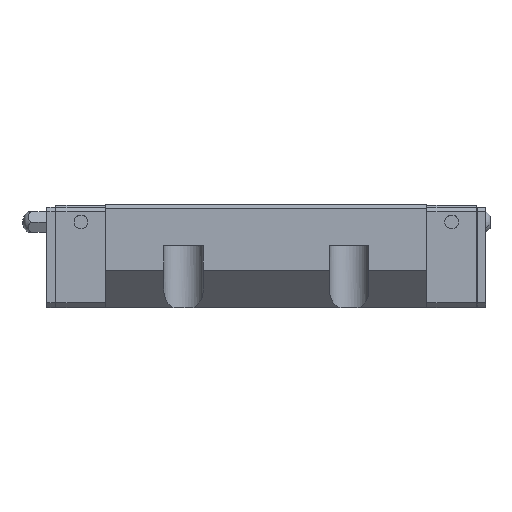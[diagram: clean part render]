
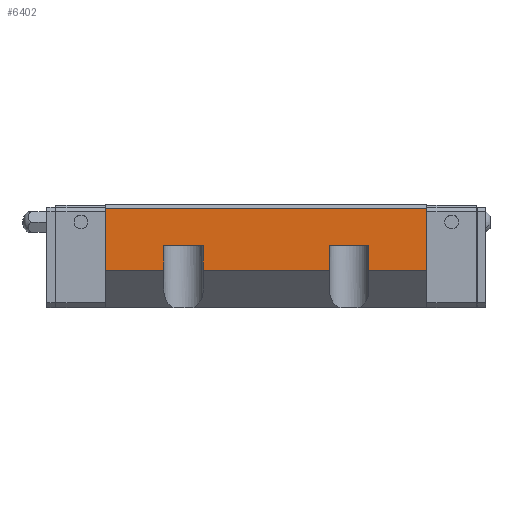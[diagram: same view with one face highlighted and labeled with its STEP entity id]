
A CAD part, top view. The second image highlights one B-rep face of the part: STEP entity #6402.
In plain terms, the highlighted planar face has unit normal (0, 0, 1).
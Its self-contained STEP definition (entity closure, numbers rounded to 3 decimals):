
#97 = VECTOR ( 'NONE', #6217, 1000. ) ;
#377 = EDGE_CURVE ( 'NONE', #1012, #4405, #1914, .T. ) ;
#389 = ORIENTED_EDGE ( 'NONE', *, *, #2647, .F. ) ;
#476 = EDGE_CURVE ( 'NONE', #8020, #3157, #8450, .T. ) ;
#585 = ORIENTED_EDGE ( 'NONE', *, *, #3516, .T. ) ;
#659 = VERTEX_POINT ( 'NONE', #3827 ) ;
#677 = CARTESIAN_POINT ( 'NONE',  ( 38.75, 8., 31.5 ) ) ;
#1002 = VERTEX_POINT ( 'NONE', #8754 ) ;
#1012 = VERTEX_POINT ( 'NONE', #2363 ) ;
#1069 = DIRECTION ( 'NONE',  ( 0., 1., 0. ) ) ;
#1150 = VERTEX_POINT ( 'NONE', #4053 ) ;
#1199 = PLANE ( 'NONE',  #1792 ) ;
#1324 = VECTOR ( 'NONE', #8290, 1000. ) ;
#1512 = CARTESIAN_POINT ( 'NONE',  ( -15.25, -7., 31.5 ) ) ;
#1544 = DIRECTION ( 'NONE',  ( 0., 1., 0. ) ) ;
#1792 = AXIS2_PLACEMENT_3D ( 'NONE', #8063, #6783, #4677 ) ;
#1910 = CARTESIAN_POINT ( 'NONE',  ( 38.75, -7., 31.5 ) ) ;
#1914 = LINE ( 'NONE', #677, #8096 ) ;
#2318 = VERTEX_POINT ( 'NONE', #4055 ) ;
#2363 = CARTESIAN_POINT ( 'NONE',  ( 38.75, 8., 31.5 ) ) ;
#2501 = CARTESIAN_POINT ( 'NONE',  ( -15.25, -1., 31.5 ) ) ;
#2647 = EDGE_CURVE ( 'NONE', #3146, #5412, #8837, .T. ) ;
#2942 = VECTOR ( 'NONE', #6304, 1000. ) ;
#3146 = VERTEX_POINT ( 'NONE', #7542 ) ;
#3157 = VERTEX_POINT ( 'NONE', #3198 ) ;
#3198 = CARTESIAN_POINT ( 'NONE',  ( -15.25, -1., 31.5 ) ) ;
#3300 = DIRECTION ( 'NONE',  ( 0., -1., 0. ) ) ;
#3363 = EDGE_CURVE ( 'NONE', #5412, #6036, #5923, .T. ) ;
#3516 = EDGE_CURVE ( 'NONE', #3146, #4405, #3869, .T. ) ;
#3567 = EDGE_CURVE ( 'NONE', #8500, #6036, #9064, .T. ) ;
#3667 = CARTESIAN_POINT ( 'NONE',  ( 15.25, -7., 31.5 ) ) ;
#3702 = CARTESIAN_POINT ( 'NONE',  ( -15.25, -7., 31.5 ) ) ;
#3827 = CARTESIAN_POINT ( 'NONE',  ( -24.75, -1., 31.5 ) ) ;
#3869 = LINE ( 'NONE', #4183, #8840 ) ;
#3901 = LINE ( 'NONE', #6678, #7496 ) ;
#3929 = ORIENTED_EDGE ( 'NONE', *, *, #8470, .T. ) ;
#3978 = VECTOR ( 'NONE', #7850, 1000. ) ;
#4053 = CARTESIAN_POINT ( 'NONE',  ( -38.75, -7., 31.5 ) ) ;
#4055 = CARTESIAN_POINT ( 'NONE',  ( -38.75, 8., 31.5 ) ) ;
#4183 = CARTESIAN_POINT ( 'NONE',  ( 24.75, -7., 31.5 ) ) ;
#4205 = ORIENTED_EDGE ( 'NONE', *, *, #3363, .F. ) ;
#4405 = VERTEX_POINT ( 'NONE', #1910 ) ;
#4448 = LINE ( 'NONE', #5029, #8361 ) ;
#4677 = DIRECTION ( 'NONE',  ( 0., -1., 0. ) ) ;
#4705 = DIRECTION ( 'NONE',  ( 0., -1., 0. ) ) ;
#4758 = ORIENTED_EDGE ( 'NONE', *, *, #377, .F. ) ;
#4765 = CARTESIAN_POINT ( 'NONE',  ( 24.75, -7., 31.5 ) ) ;
#4809 = ORIENTED_EDGE ( 'NONE', *, *, #476, .F. ) ;
#4877 = EDGE_CURVE ( 'NONE', #3157, #659, #5965, .T. ) ;
#4984 = VECTOR ( 'NONE', #5507, 1000. ) ;
#5006 = VECTOR ( 'NONE', #3300, 1000. ) ;
#5029 = CARTESIAN_POINT ( 'NONE',  ( -38.75, -7., 31.5 ) ) ;
#5159 = ORIENTED_EDGE ( 'NONE', *, *, #5332, .F. ) ;
#5297 = CARTESIAN_POINT ( 'NONE',  ( -38.75, 8., 31.5 ) ) ;
#5327 = VECTOR ( 'NONE', #1069, 1000. ) ;
#5332 = EDGE_CURVE ( 'NONE', #2318, #1012, #7564, .T. ) ;
#5412 = VERTEX_POINT ( 'NONE', #7729 ) ;
#5467 = VECTOR ( 'NONE', #1544, 1000. ) ;
#5507 = DIRECTION ( 'NONE',  ( 1., 0., 0. ) ) ;
#5923 = LINE ( 'NONE', #8540, #3978 ) ;
#5962 = DIRECTION ( 'NONE',  ( 1., 0., 0. ) ) ;
#5965 = LINE ( 'NONE', #2501, #1324 ) ;
#6036 = VERTEX_POINT ( 'NONE', #8943 ) ;
#6217 = DIRECTION ( 'NONE',  ( 0., 1., 0. ) ) ;
#6304 = DIRECTION ( 'NONE',  ( 1., 0., 0. ) ) ;
#6364 = CARTESIAN_POINT ( 'NONE',  ( -38.75, 8., 31.5 ) ) ;
#6402 = ADVANCED_FACE ( 'NONE', ( #8197 ), #1199, .T. ) ;
#6678 = CARTESIAN_POINT ( 'NONE',  ( -24.75, -7., 31.5 ) ) ;
#6783 = DIRECTION ( 'NONE',  ( 0., 0., 1. ) ) ;
#6861 = CARTESIAN_POINT ( 'NONE',  ( -15.25, -7., 31.5 ) ) ;
#7101 = EDGE_CURVE ( 'NONE', #8020, #8500, #8319, .T. ) ;
#7119 = ORIENTED_EDGE ( 'NONE', *, *, #7101, .T. ) ;
#7237 = DIRECTION ( 'NONE',  ( 1., 0., 0. ) ) ;
#7348 = EDGE_LOOP ( 'NONE', ( #3929, #8830, #7740, #4809, #7119, #7657, #4205, #389, #585, #4758, #5159, #7520 ) ) ;
#7496 = VECTOR ( 'NONE', #8185, 1000. ) ;
#7520 = ORIENTED_EDGE ( 'NONE', *, *, #8552, .T. ) ;
#7542 = CARTESIAN_POINT ( 'NONE',  ( 24.75, -7., 31.5 ) ) ;
#7564 = LINE ( 'NONE', #6364, #4984 ) ;
#7646 = CARTESIAN_POINT ( 'NONE',  ( 15.25, -7., 31.5 ) ) ;
#7657 = ORIENTED_EDGE ( 'NONE', *, *, #3567, .T. ) ;
#7729 = CARTESIAN_POINT ( 'NONE',  ( 24.75, -1., 31.5 ) ) ;
#7740 = ORIENTED_EDGE ( 'NONE', *, *, #4877, .F. ) ;
#7850 = DIRECTION ( 'NONE',  ( -1., 0., 0. ) ) ;
#8020 = VERTEX_POINT ( 'NONE', #1512 ) ;
#8063 = CARTESIAN_POINT ( 'NONE',  ( 18.75, 8., 31.5 ) ) ;
#8096 = VECTOR ( 'NONE', #4705, 1000. ) ;
#8175 = LINE ( 'NONE', #5297, #5006 ) ;
#8185 = DIRECTION ( 'NONE',  ( 0., 1., 0. ) ) ;
#8197 = FACE_OUTER_BOUND ( 'NONE', #7348, .T. ) ;
#8226 = EDGE_CURVE ( 'NONE', #1002, #659, #3901, .T. ) ;
#8290 = DIRECTION ( 'NONE',  ( -1., 0., 0. ) ) ;
#8319 = LINE ( 'NONE', #6861, #2942 ) ;
#8361 = VECTOR ( 'NONE', #7237, 1000. ) ;
#8450 = LINE ( 'NONE', #3702, #5467 ) ;
#8470 = EDGE_CURVE ( 'NONE', #1150, #1002, #4448, .T. ) ;
#8500 = VERTEX_POINT ( 'NONE', #3667 ) ;
#8540 = CARTESIAN_POINT ( 'NONE',  ( 24.75, -1., 31.5 ) ) ;
#8552 = EDGE_CURVE ( 'NONE', #2318, #1150, #8175, .T. ) ;
#8754 = CARTESIAN_POINT ( 'NONE',  ( -24.75, -7., 31.5 ) ) ;
#8830 = ORIENTED_EDGE ( 'NONE', *, *, #8226, .T. ) ;
#8837 = LINE ( 'NONE', #4765, #97 ) ;
#8840 = VECTOR ( 'NONE', #5962, 1000. ) ;
#8943 = CARTESIAN_POINT ( 'NONE',  ( 15.25, -1., 31.5 ) ) ;
#9064 = LINE ( 'NONE', #7646, #5327 ) ;
